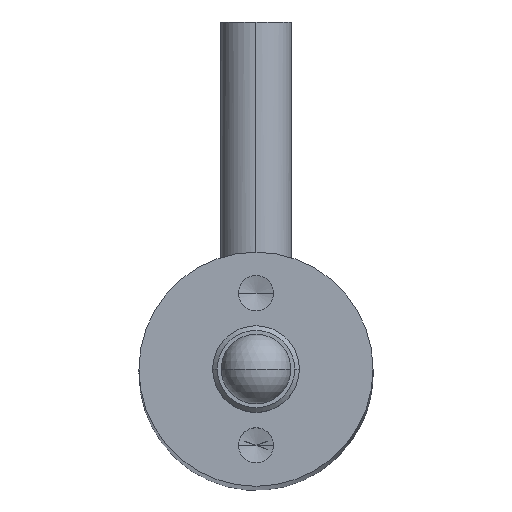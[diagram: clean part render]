
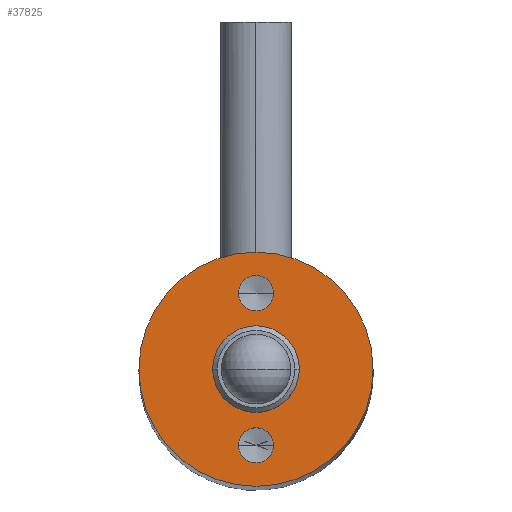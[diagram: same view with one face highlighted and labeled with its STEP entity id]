
A CAD part, top view. The second image highlights one B-rep face of the part: STEP entity #37825.
In plain terms, the highlighted planar face has unit normal (0, 0, 1).
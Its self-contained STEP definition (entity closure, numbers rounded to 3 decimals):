
#871 = CIRCLE ( 'NONE', #23937, 5. ) ;
#1961 = CARTESIAN_POINT ( 'NONE',  ( -0.75, -3.25, 100.6 ) ) ;
#2135 = CIRCLE ( 'NONE', #20780, 1.85 ) ;
#2393 = ORIENTED_EDGE ( 'NONE', *, *, #7411, .F. ) ;
#3295 = DIRECTION ( 'NONE',  ( 1., 0., 0. ) ) ;
#3946 = EDGE_LOOP ( 'NONE', ( #21440, #5689 ) ) ;
#5417 = DIRECTION ( 'NONE',  ( 0., 0., 1. ) ) ;
#5689 = ORIENTED_EDGE ( 'NONE', *, *, #9465, .F. ) ;
#6274 = CARTESIAN_POINT ( 'NONE',  ( 0., -3.25, 100.6 ) ) ;
#6381 = DIRECTION ( 'NONE',  ( 0., 0., 1. ) ) ;
#6554 = EDGE_LOOP ( 'NONE', ( #27292, #32890 ) ) ;
#6685 = CIRCLE ( 'NONE', #10724, 0.75 ) ;
#7411 = EDGE_CURVE ( 'NONE', #17109, #22419, #11234, .T. ) ;
#8064 = AXIS2_PLACEMENT_3D ( 'NONE', #15185, #15320, #9178 ) ;
#9058 = CARTESIAN_POINT ( 'NONE',  ( 5., 0., 100.6 ) ) ;
#9080 = DIRECTION ( 'NONE',  ( 0., 0., 1. ) ) ;
#9178 = DIRECTION ( 'NONE',  ( 1., 0., 0. ) ) ;
#9333 = DIRECTION ( 'NONE',  ( 1., 0., 0. ) ) ;
#9465 = EDGE_CURVE ( 'NONE', #21717, #25431, #6685, .T. ) ;
#10438 = DIRECTION ( 'NONE',  ( 1., 0., 0. ) ) ;
#10724 = AXIS2_PLACEMENT_3D ( 'NONE', #39799, #20648, #11286 ) ;
#10936 = DIRECTION ( 'NONE',  ( 0., 0., 1. ) ) ;
#11089 = CIRCLE ( 'NONE', #39253, 0.75 ) ;
#11234 = CIRCLE ( 'NONE', #8064, 0.75 ) ;
#11286 = DIRECTION ( 'NONE',  ( 1., 0., 0. ) ) ;
#13779 = EDGE_LOOP ( 'NONE', ( #2393, #21050 ) ) ;
#14243 = CARTESIAN_POINT ( 'NONE',  ( 1.85, 0., 100.6 ) ) ;
#14530 = AXIS2_PLACEMENT_3D ( 'NONE', #18398, #5417, #21727 ) ;
#15137 = CIRCLE ( 'NONE', #14530, 0.75 ) ;
#15160 = EDGE_CURVE ( 'NONE', #22419, #17109, #15137, .T. ) ;
#15185 = CARTESIAN_POINT ( 'NONE',  ( 0., 3.25, 100.6 ) ) ;
#15320 = DIRECTION ( 'NONE',  ( 0., 0., 1. ) ) ;
#15838 = EDGE_CURVE ( 'NONE', #29986, #25613, #40635, .T. ) ;
#16008 = CARTESIAN_POINT ( 'NONE',  ( 0., 0., 100.6 ) ) ;
#16402 = FACE_BOUND ( 'NONE', #6554, .T. ) ;
#16662 = CARTESIAN_POINT ( 'NONE',  ( -5., 0., 100.6 ) ) ;
#16738 = CARTESIAN_POINT ( 'NONE',  ( 0., 0., 100.6 ) ) ;
#17109 = VERTEX_POINT ( 'NONE', #22142 ) ;
#17434 = FACE_BOUND ( 'NONE', #3946, .T. ) ;
#18398 = CARTESIAN_POINT ( 'NONE',  ( 0., 3.25, 100.6 ) ) ;
#18567 = DIRECTION ( 'NONE',  ( 0., 0., 1. ) ) ;
#19821 = DIRECTION ( 'NONE',  ( 0., 0., 1. ) ) ;
#20648 = DIRECTION ( 'NONE',  ( 0., 0., 1. ) ) ;
#20712 = DIRECTION ( 'NONE',  ( 1., 0., 0. ) ) ;
#20780 = AXIS2_PLACEMENT_3D ( 'NONE', #16738, #19821, #10438 ) ;
#21050 = ORIENTED_EDGE ( 'NONE', *, *, #15160, .F. ) ;
#21440 = ORIENTED_EDGE ( 'NONE', *, *, #26488, .F. ) ;
#21717 = VERTEX_POINT ( 'NONE', #1961 ) ;
#21727 = DIRECTION ( 'NONE',  ( 1., 0., 0. ) ) ;
#21970 = VERTEX_POINT ( 'NONE', #23129 ) ;
#22078 = EDGE_CURVE ( 'NONE', #25461, #21970, #2135, .T. ) ;
#22142 = CARTESIAN_POINT ( 'NONE',  ( 0.75, 3.25, 100.6 ) ) ;
#22419 = VERTEX_POINT ( 'NONE', #38610 ) ;
#23129 = CARTESIAN_POINT ( 'NONE',  ( -1.85, 0., 100.6 ) ) ;
#23376 = AXIS2_PLACEMENT_3D ( 'NONE', #24979, #9080, #31431 ) ;
#23937 = AXIS2_PLACEMENT_3D ( 'NONE', #16008, #6381, #3295 ) ;
#24888 = FACE_BOUND ( 'NONE', #13779, .T. ) ;
#24979 = CARTESIAN_POINT ( 'NONE',  ( 0., 0., 100.6 ) ) ;
#25391 = ORIENTED_EDGE ( 'NONE', *, *, #40589, .T. ) ;
#25431 = VERTEX_POINT ( 'NONE', #37011 ) ;
#25461 = VERTEX_POINT ( 'NONE', #14243 ) ;
#25613 = VERTEX_POINT ( 'NONE', #9058 ) ;
#26488 = EDGE_CURVE ( 'NONE', #25431, #21717, #11089, .T. ) ;
#27292 = ORIENTED_EDGE ( 'NONE', *, *, #33309, .F. ) ;
#29800 = ORIENTED_EDGE ( 'NONE', *, *, #15838, .T. ) ;
#29986 = VERTEX_POINT ( 'NONE', #16662 ) ;
#30224 = CARTESIAN_POINT ( 'NONE',  ( 0., 0., 100.6 ) ) ;
#30388 = PLANE ( 'NONE',  #31067 ) ;
#31067 = AXIS2_PLACEMENT_3D ( 'NONE', #40412, #37467, #31198 ) ;
#31198 = DIRECTION ( 'NONE',  ( 1., 0., 0. ) ) ;
#31431 = DIRECTION ( 'NONE',  ( 1., 0., 0. ) ) ;
#32890 = ORIENTED_EDGE ( 'NONE', *, *, #22078, .F. ) ;
#33309 = EDGE_CURVE ( 'NONE', #21970, #25461, #36512, .T. ) ;
#35242 = EDGE_LOOP ( 'NONE', ( #29800, #25391 ) ) ;
#35407 = FACE_OUTER_BOUND ( 'NONE', #35242, .T. ) ;
#36512 = CIRCLE ( 'NONE', #38743, 1.85 ) ;
#37011 = CARTESIAN_POINT ( 'NONE',  ( 0.75, -3.25, 100.6 ) ) ;
#37467 = DIRECTION ( 'NONE',  ( 0., 0., 1. ) ) ;
#37825 = ADVANCED_FACE ( 'NONE', ( #17434, #24888, #16402, #35407 ), #30388, .T. ) ;
#38610 = CARTESIAN_POINT ( 'NONE',  ( -0.75, 3.25, 100.6 ) ) ;
#38743 = AXIS2_PLACEMENT_3D ( 'NONE', #30224, #10936, #20712 ) ;
#39253 = AXIS2_PLACEMENT_3D ( 'NONE', #6274, #18567, #9333 ) ;
#39799 = CARTESIAN_POINT ( 'NONE',  ( 0., -3.25, 100.6 ) ) ;
#40412 = CARTESIAN_POINT ( 'NONE',  ( 0., 0., 100.6 ) ) ;
#40589 = EDGE_CURVE ( 'NONE', #25613, #29986, #871, .T. ) ;
#40635 = CIRCLE ( 'NONE', #23376, 5. ) ;
